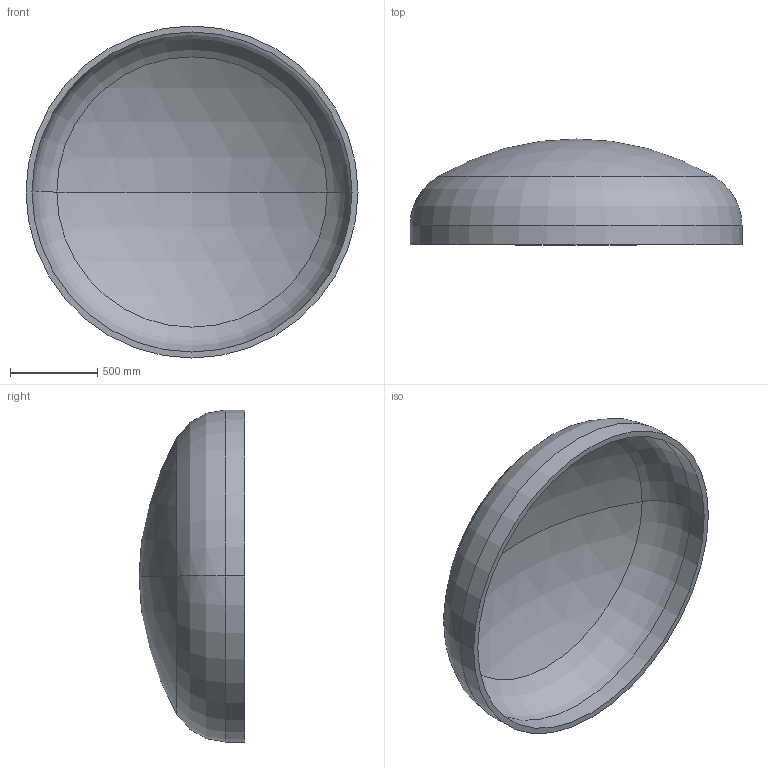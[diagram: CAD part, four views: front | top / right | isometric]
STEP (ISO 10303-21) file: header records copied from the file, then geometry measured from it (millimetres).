
FILE_DESCRIPTION (( 'STEP AP203' ), '1' );
FILE_NAME ('DIN 28013 Korbbogenform_-_Boden DIN 28013 - 1900 x 110 - I - s=34.step', '2016-07-01T13:05:50', ( '' ), ( '' ), 'SwSTEP 2.0', 'SolidWorks 2013', '' );
FILE_SCHEMA (( 'CONFIG_CONTROL_DESIGN' ));
Length unit declared in the file: millimetre
Products named in the file (1): DIN 28013 Korbbogenform_-_Boden DIN 28013 - 1900 x 110 - I - s=34
Bounding box: 1900 x 605.22 x 1900 mm (x, y, z)
Volume: 152094569 mm3; surface area: 9148472.7 mm2
Topology: 1 solids, 1 shells, 13 faces, 24 edges, 14 vertices
Faces by surface type: torus 4, cylinder 4, sphere 4, plane 1
Entity records: 407 total; most frequent: DIRECTION 72, CARTESIAN_POINT 52, ORIENTED_EDGE 48, AXIS2_PLACEMENT_3D 34, EDGE_CURVE 24, CIRCLE 20, VERTEX_POINT 14, EDGE_LOOP 14
